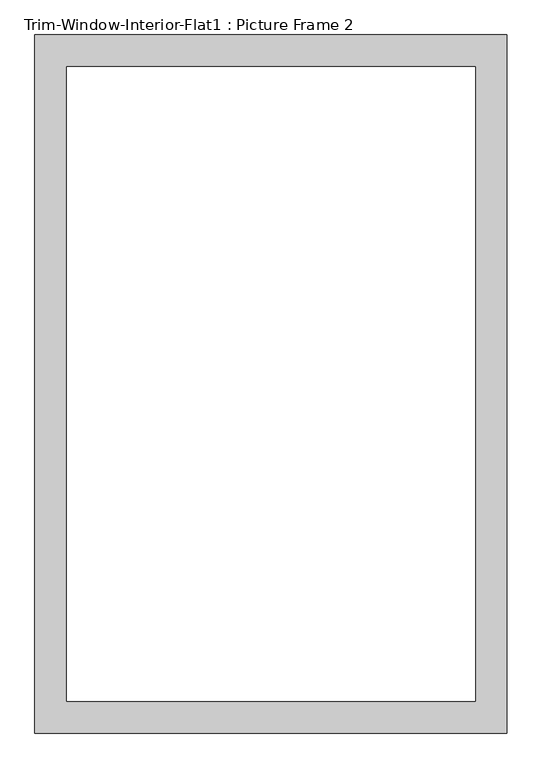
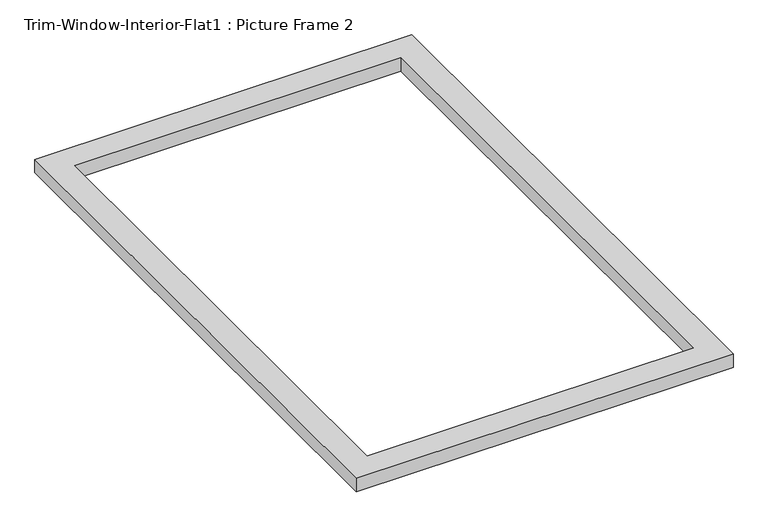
"""IFC4 building model written with IfcOpenShell, lengths in millimetres: proxy geometry, Trim-Window-Interior-Flat1 : Picture Frame 2."""

from ifc_helpers import new_model, si_unit, origin, origin_with_axes, place, context, project, spatial, polyline, outline, extrude, source, transform, mapped, element, save


def trim_window_interior_flat1_picture_frame_2_840a62db(model_context):
    return source(origin(), model_context, "Body", "SweptSolid", [
        extrude(outline(polyline([(425.45, 44.45), (425.45, -1212.85), (-425.45, -1212.85), (-425.45, 44.45), (425.45, 44.45)]), holes=[polyline([(368.3, -12.7), (-368.3, -12.7), (-368.3, -1155.7), (368.3, -1155.7), (368.3, -12.7)])]), origin_with_axes(), (0.0, 0.0, 1.0), 31.75),
    ])


if __name__ == "__main__":
    model = new_model("IFC4")
    model_context = context("Model", 3, world=origin())
    ifc_project = project(units=[si_unit("LENGTHUNIT", "METRE", prefix="MILLI")], contexts=[model_context])
    site = spatial("IfcSite", under=ifc_project)
    building = spatial("IfcBuilding", under=site)
    placement = place(None, origin())
    trim_window_interior_flat1_picture_frame_2_shape = trim_window_interior_flat1_picture_frame_2_840a62db(model_context)
    element("IfcBuildingElementProxy", 1, Name="Trim-Window-Interior-Flat1 : Picture Frame 2", ObjectType="Trim-Window-Interior-Flat1 : Picture Frame 2", at=placement, inside=building, context=model_context, shape_type="MappedRepresentation", body=[
        mapped(trim_window_interior_flat1_picture_frame_2_shape, transform((0.0, 0.0, 0.0), x_axis=(1.0, 0.0, 0.0), y_axis=(0.0, 1.0, 0.0), z_axis=(0.0, 0.0, 1.0))),
    ])
    save(model, "model.ifc")
